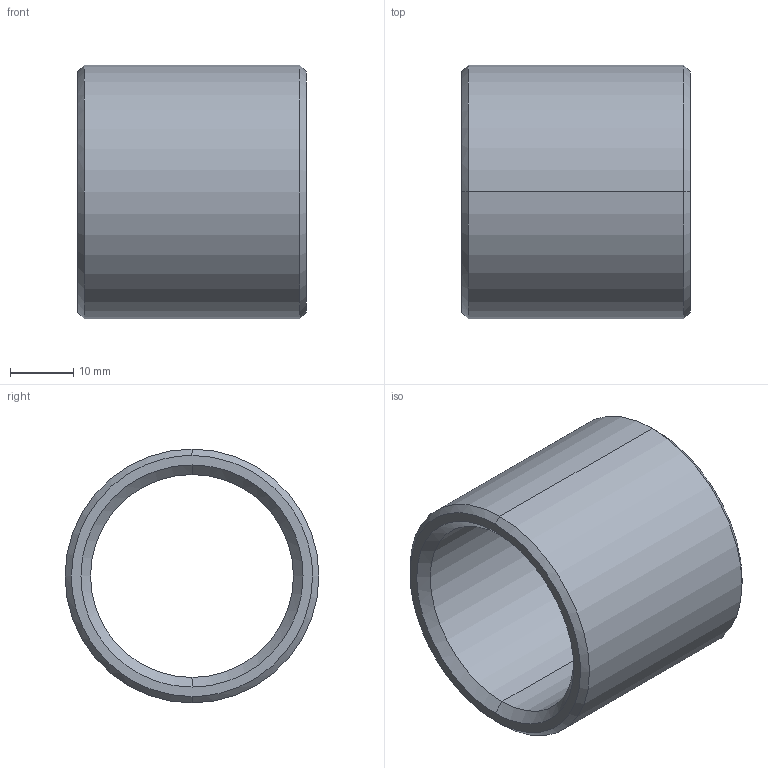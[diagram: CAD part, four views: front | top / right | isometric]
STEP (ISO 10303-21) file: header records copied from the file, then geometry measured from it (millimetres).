
FILE_DESCRIPTION(('CATIA V5 STEP Exchange'),'2;1');
FILE_NAME('C:\Users\Utente\Desktop\IO LAVORO\3D X SITO CF\X SITO\PLASTICA\352\352-32X36.stp','2021-04-14T15:03:05+00:00',('none'),('none'),'CATIA Version 5 Release 20 GA (IN-10)','CATIA V5 STEP AP203','none');
FILE_SCHEMA(('CONFIG_CONTROL_DESIGN'));
Length unit declared in the file: millimetre
Products named in the file (1): 352-32X36
Bounding box: 36 x 40 x 40 mm (x, y, z)
Volume: 16023.9 mm3; surface area: 8769.8 mm2
Topology: 1 solids, 1 shells, 14 faces, 44 edges, 32 vertices
Faces by surface type: cone 6, cylinder 4, plane 2, torus 2
Entity records: 634 total; most frequent: CARTESIAN_POINT 203, ORIENTED_EDGE 88, DIRECTION 64, EDGE_CURVE 44, AXIS2_PLACEMENT_3D 41, VERTEX_POINT 32, CIRCLE 26, EDGE_LOOP 16
